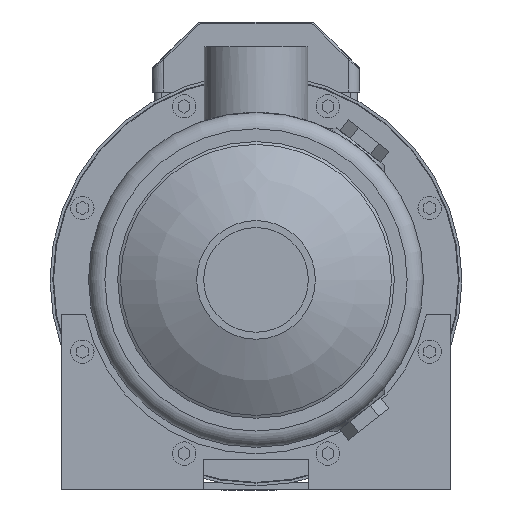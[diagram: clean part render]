
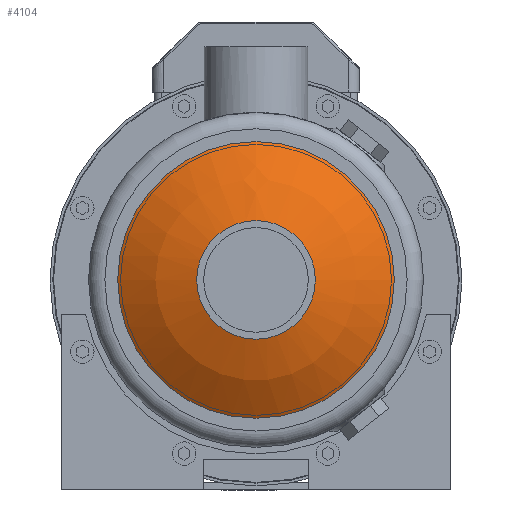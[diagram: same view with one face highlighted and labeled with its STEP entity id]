
A CAD part, left-side view. The second image highlights one B-rep face of the part: STEP entity #4104.
In plain terms, the highlighted spherical face has radius 100 mm.
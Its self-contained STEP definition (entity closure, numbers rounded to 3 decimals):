
#63=SPHERICAL_SURFACE('',#5494,100.);
#950=ORIENTED_EDGE('',*,*,#2059,.T.);
#951=ORIENTED_EDGE('',*,*,#2058,.F.);
#2058=EDGE_CURVE('',#2617,#2617,#3000,.T.);
#2059=EDGE_CURVE('',#2618,#2618,#3001,.T.);
#2617=VERTEX_POINT('',#7349);
#2618=VERTEX_POINT('',#7352);
#3000=CIRCLE('',#5493,25.4);
#3001=CIRCLE('',#5495,59.25);
#3186=EDGE_LOOP('',(#950));
#3187=EDGE_LOOP('',(#951));
#3571=FACE_BOUND('',#3186,.T.);
#3572=FACE_BOUND('',#3187,.T.);
#4104=ADVANCED_FACE('',(#3571,#3572),#63,.T.);
#5493=AXIS2_PLACEMENT_3D('',#7348,#5996,#5997);
#5494=AXIS2_PLACEMENT_3D('',#7350,#5998,#5999);
#5495=AXIS2_PLACEMENT_3D('',#7351,#6000,#6001);
#5996=DIRECTION('',(-1.,0.,0.));
#5997=DIRECTION('',(0.,0.,1.));
#5998=DIRECTION('',(-1.,0.,0.));
#5999=DIRECTION('',(0.,0.,1.));
#6000=DIRECTION('',(-1.,0.,0.));
#6001=DIRECTION('',(0.,0.,1.));
#7348=CARTESIAN_POINT('',(-82.02,0.,0.));
#7349=CARTESIAN_POINT('',(-82.02,0.,25.4));
#7350=CARTESIAN_POINT('',(14.7,0.,0.));
#7351=CARTESIAN_POINT('',(-65.857,0.,0.));
#7352=CARTESIAN_POINT('',(-65.857,0.,59.25));
